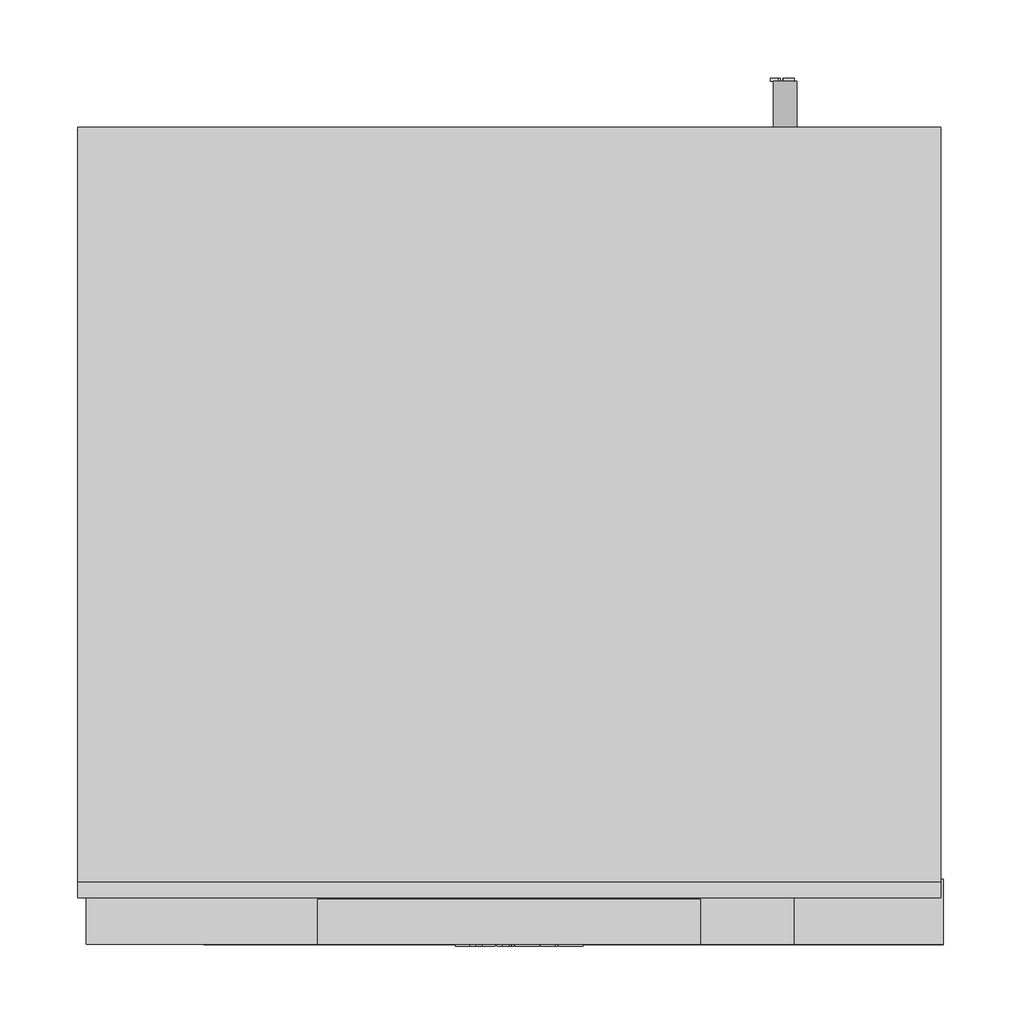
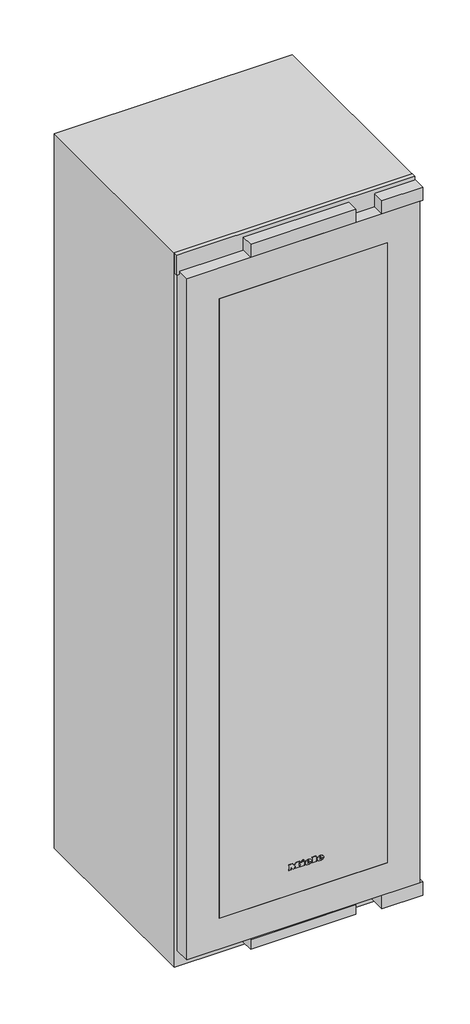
# Not in any storey: 1 proxy.
"""IFC4 building model written with IfcOpenShell, lengths in millimetres."""

from ifc_helpers import new_model, si_unit, origin, place, context, project, spatial, transform, mapped, element, save
from components import specialty_equipment_b929a7a0

model = new_model("IFC4")

# Units and contexts
model_context = context("Model", 3, world=origin())
ifc_project = project(units=[si_unit("LENGTHUNIT", "METRE", prefix="MILLI")], contexts=[model_context])

# Site, building
site = spatial("IfcSite", under=ifc_project)
building = spatial("IfcBuilding", under=site)

# Proxy
placement = place(None, origin())
specialty_equipment_shape = specialty_equipment_b929a7a0(model_context)
element("IfcBuildingElementProxy", 1, Name="12364320_EU1_KWT6722iS-1 : 36672202_EU1_12364320_KWT6722iS-1", ObjectType="12364320_EU1_KWT6722iS-1 : 36672202_EU1_12364320_KWT6722iS-1", at=placement, inside=building, context=model_context, shape_type="MappedRepresentation", body=[
    mapped(specialty_equipment_shape, transform((0.0, 0.0, 0.0), x_axis=(1.0, 0.0, 0.0), y_axis=(0.0, 1.0, 0.0), z_axis=(0.0, 0.0, 1.0))),
])

save(model, "model.ifc")
